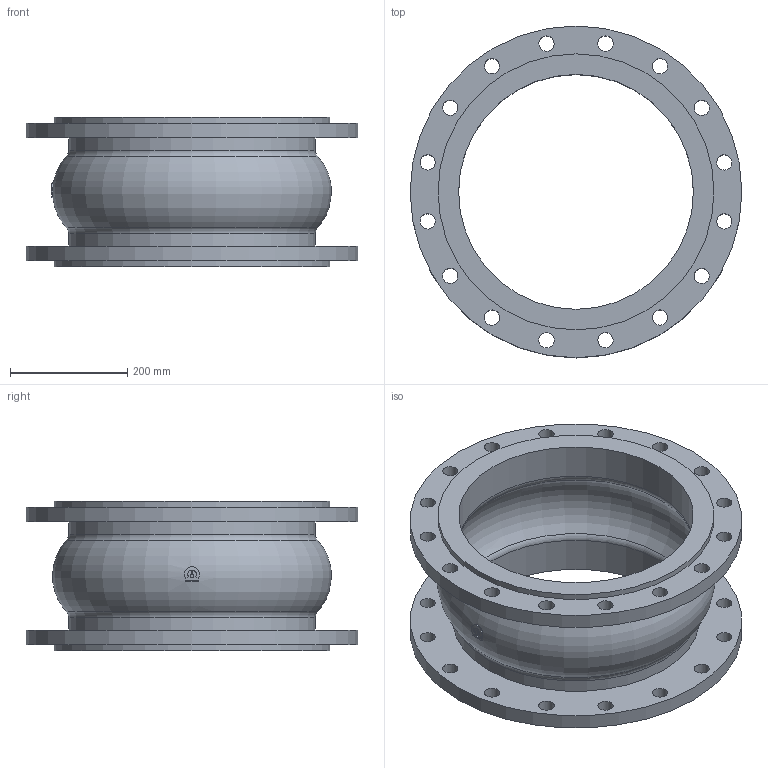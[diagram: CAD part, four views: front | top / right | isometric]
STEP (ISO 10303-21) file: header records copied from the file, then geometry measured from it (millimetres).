
FILE_DESCRIPTION(('STEP AP203'), '1');
FILE_NAME('Êîìïåíñàòîð KMS DN400 PN10_L255', '', ('UNSPECIFIED'), ('UNSPECIFIED'), 'ASCON STEP Converter 1.6', 'ASCON Math Kernel', '');
FILE_SCHEMA(('CONFIG_CONTROL_DESIGN'));
Length unit declared in the file: millimetre
Bounding box: 565 x 565 x 255 mm (x, y, z)
Volume: 9630633.8 mm3; surface area: 1259494.5 mm2
Topology: 1 solids, 1 shells, 69 faces, 172 edges, 112 vertices
Faces by surface type: cylinder 47, plane 13, torus 9
Full cylindrical faces by diameter (mm): 26 x32, 400 x2, 420 x2, 470 x2, 565 x2
Entity records: 3578 total; most frequent: CARTESIAN_POINT 1349, DIRECTION 334, ORIENTED_EDGE 252, EDGE_LOOP 188, AXIS2_PLACEMENT_3D 160, EDGE_CURVE 126, VERTEX_POINT 112, FACE_BOUND 96
